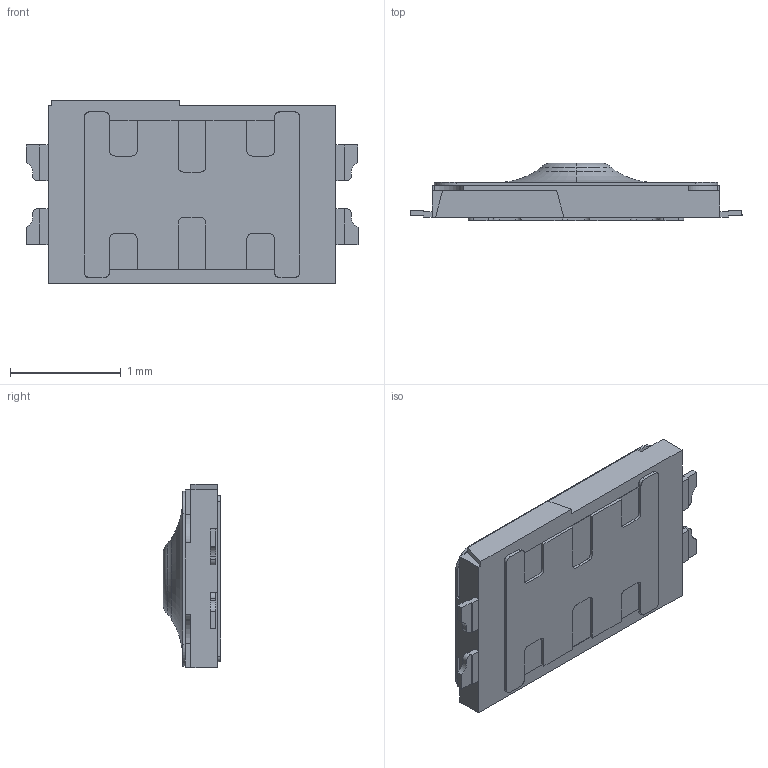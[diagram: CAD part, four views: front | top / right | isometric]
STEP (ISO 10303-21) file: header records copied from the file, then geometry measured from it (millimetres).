
FILE_DESCRIPTION (( 'STEP AP214' ), '1' );
FILE_NAME ('SKTACBE010_’†”²‚«ƒ‚ƒfƒ‹.STEP', '2026-05-07T05:24:36', ( '' ), ( '' ), 'SwSTEP 2.0', 'SolidWorks 2025', '' );
FILE_SCHEMA (( 'AUTOMOTIVE_DESIGN' ));
Length unit declared in the file: millimetre
Products named in the file (1): SKTACBE010_中抜きモデル
Bounding box: 3 x 0.52 x 1.66 mm (x, y, z)
Volume: 1.5 mm3; surface area: 13 mm2
Topology: 5 solids, 5 shells, 154 faces, 410 edges, 268 vertices
Faces by surface type: plane 108, cylinder 40, torus 6
Entity records: 5551 total; most frequent: CARTESIAN_POINT 881, ORIENTED_EDGE 820, DIRECTION 782, EDGE_CURVE 410, LINE 316, VECTOR 316, VERTEX_POINT 268, AXIS2_PLACEMENT_3D 233
